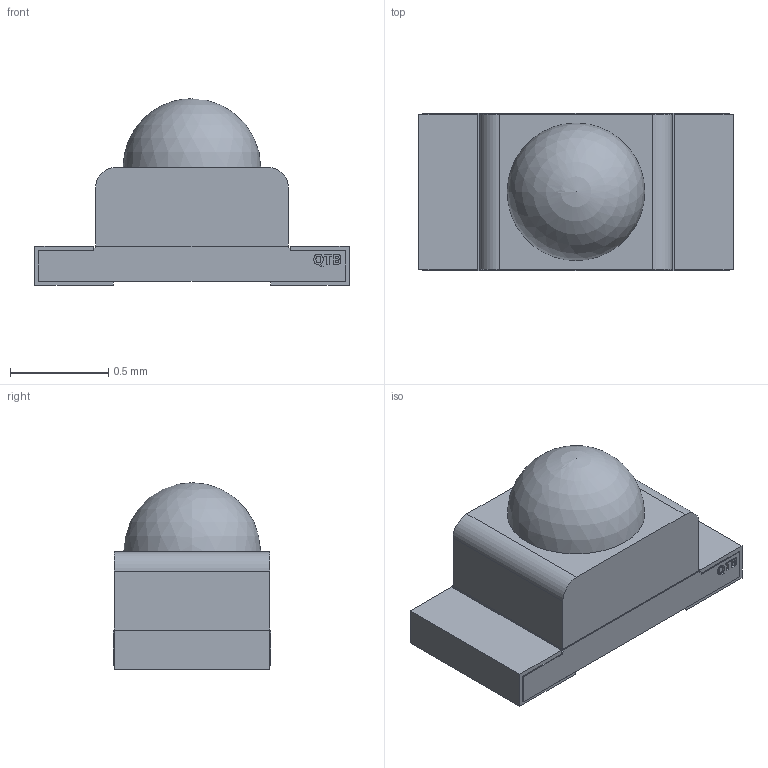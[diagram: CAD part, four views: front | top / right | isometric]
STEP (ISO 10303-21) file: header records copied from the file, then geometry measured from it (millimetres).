
FILE_DESCRIPTION(/* description */ (''),/* implementation_level */ '2;1');
FILE_NAME(/* name */ '5fab0aea258d1f0f4c7a939b',/* time_stamp */ '2020-11-10T21:49:30+00:00',/* author */ (''),/* organization */ (''),/* preprocessor_version */ 'ST-DEVELOPER v16.7',/* originating_system */ $,/* authorisation */ $);
FILE_SCHEMA (('AUTOMOTIVE_DESIGN {1 0 10303 214 3 1 1}'));
Length unit declared in the file: metre
Products named in the file (5): QBLP601D; Lens; Lead 2; Substate; Lead 1
Assembly tree (4 placements, depth 2):
  QBLP601D
    Lens
    Lead 2
    Substate
    Lead 1
Bounding box: 1.6 x 0.8 x 0.95 mm (x, y, z)
Volume: 0.6 mm3; surface area: 9.5 mm2
Topology: 4 solids, 4 shells, 100 faces, 258 edges, 172 vertices
Faces by surface type: plane 68, bspline 29, cylinder 2, sphere 1
Entity records: 3218 total; most frequent: CARTESIAN_POINT 851, ORIENTED_EDGE 512, DIRECTION 355, EDGE_CURVE 256, LINE 193, VECTOR 193, VERTEX_POINT 171, EDGE_LOOP 107
